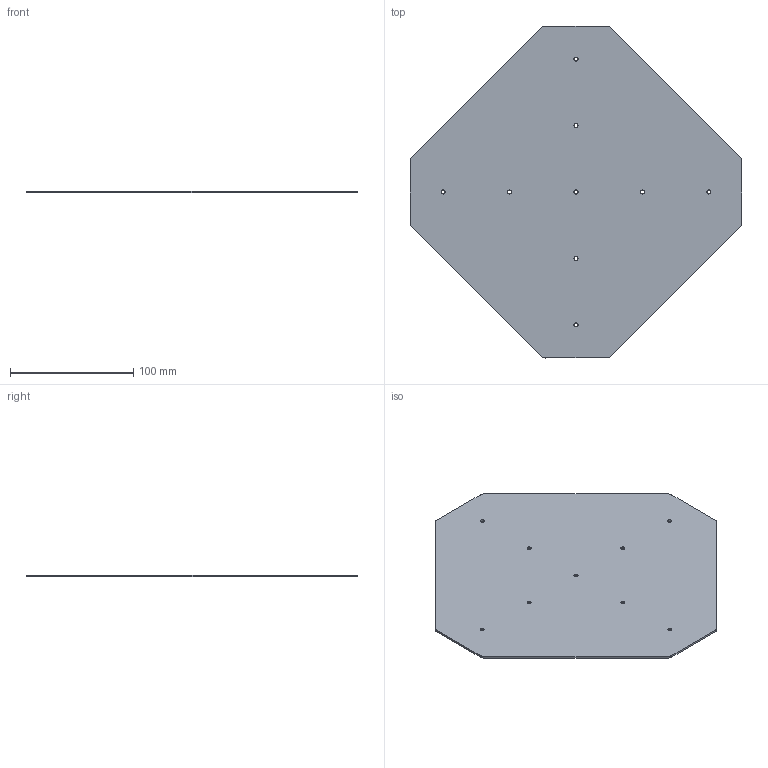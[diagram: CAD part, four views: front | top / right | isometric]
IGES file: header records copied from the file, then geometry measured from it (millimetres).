
Start section: SolidWorks IGES file using analytic representation for surfaces
Global section: file name: C:\Working\Gusset Convert\DRP-002-0007-02.igs; native system: SolidWorks 2010; preprocessor: SolidWorks 2010; author: mbush2; date: 100624.090017; units: inch
Bounding box: 269.88 x 269.88 x 1.59 mm (x, y, z)
Surface area: 100344.8 mm2 (no closed solid volume)
Topology: 0 solids, 0 shells, 36 faces, 504 edges, 504 vertices
Faces by surface type: revolution 26, bspline 10
